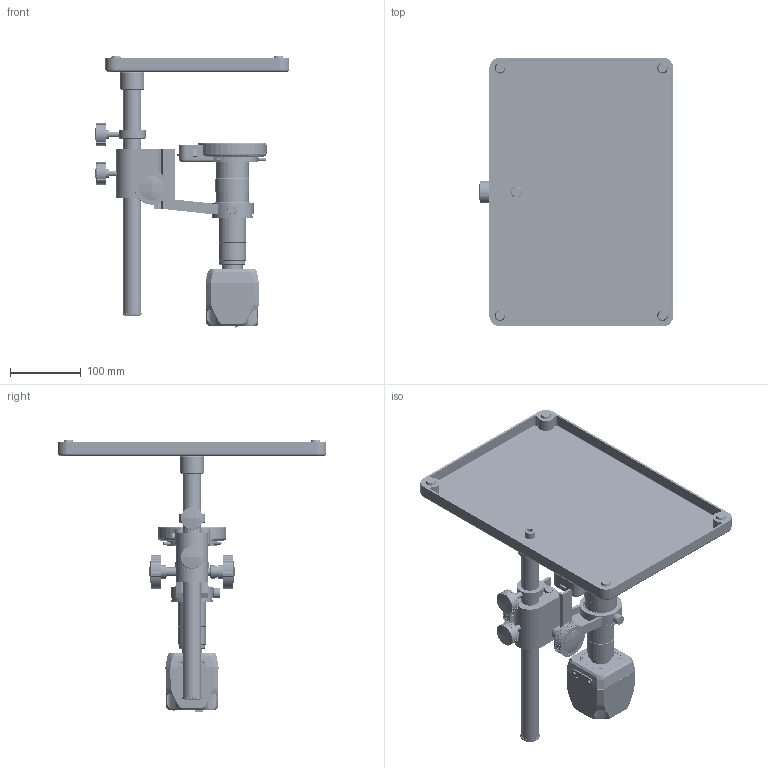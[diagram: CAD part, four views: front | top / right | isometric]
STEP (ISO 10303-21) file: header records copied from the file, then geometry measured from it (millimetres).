
FILE_DESCRIPTION((''),'2;1');
FILE_NAME('HDMI0001_ASM','2025-01-02T18:46:02',('gengdawei'),(''),'CREO PARAMETRIC BY PTC INC, 2020044','CREO PARAMETRIC BY PTC INC, 2020044','');
FILE_SCHEMA(('CONFIG_CONTROL_DESIGN'));
Products named in the file (81): ADMICE72HQW4_1_1_1_1_1; ADMICE72HQW4_2_1_1_1_1; ADMICE72HQW4_3_1_1_1_1; ADMICE72HQW4_4_1_1_1_1; ADMICE72HQW4_5_1_1_1_1; ADMICE72HQW4_6_1_1_1_1; ADMICE72HQW4_7_1_1_1_1; ADMICE72HQW4_8_1_1_1_1; ADMICE72HQW4_9_1_1_1_1; ADMICE72HQW4_10_1_1_1_1; ADMICE72HQW4_11_1_1_1_1; ADMICE72HQW4_ASM_1_1_ASM_1_ASM__ASM; B1000_ASM_1_1_ASM_1_ASM_1_ASM; BREP_43_1_1_1_1; BREP_32_1_1_1_1; BREP_54_1_1_1_1; BREP_46_1_1_1_1; BREP_35_1_1_1_1; BREP_62_1_1_1_1; BREP_51_1_1_1_1; BREP_55_1_1_1_1; BREP_44_1_1_1_1; BREP_41_1_1_1_1; BREP_31_1_1_1_1; BREP_58_1_1_1_1; BREP_38_1_1_1_1; BREP_60_1_1_1_1; BREP_57_1_1_1_1; BREP_40_1_1_1_1; BREP_48_1_1_1_1; BREP_45_1_1_1_1; BREP_53_1_1_1_1; BREP_37_1_1_1_1; BREP_33_1_1_1_1; BREP_50_1_1_1_1; ADMI3E458BAH_ASM_1_1_ASM_1_ASM__ASM; B100002_ASM_1_1_ASM_1_ASM_1_ASM; ADMI2072HVA5_1_1_1_1_1; ADMI2072HVA5_2_1_1_1_1; ADMI2072HVA5_3_1_1_1_1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
Assembly tree (80 placements, depth 7):
  HDMI0001_ASM
    HDMI00_ASM_1_ASM
      HDMI00_ASM_ASM_1_ASM_1_ASM
        HDMI00_ASM_1_1_ASM_1_ASM_1_ASM
          B1000_ASM_1_1_ASM_1_ASM_1_ASM
            ADMICE72HQW4_ASM_1_1_ASM_1_ASM__ASM
              ADMICE72HQW4_1_1_1_1_1
              ADMICE72HQW4_2_1_1_1_1
              ADMICE72HQW4_3_1_1_1_1
              ADMICE72HQW4_4_1_1_1_1
              ADMICE72HQW4_5_1_1_1_1
              ADMICE72HQW4_6_1_1_1_1
              ADMICE72HQW4_7_1_1_1_1
              ADMICE72HQW4_8_1_1_1_1
              ADMICE72HQW4_9_1_1_1_1
              ADMICE72HQW4_10_1_1_1_1
              ADMICE72HQW4_11_1_1_1_1
          B100002_ASM_1_1_ASM_1_ASM_1_ASM
            ADMI3E458BAH_ASM_1_1_ASM_1_ASM__ASM
              BREP_43_1_1_1_1
              BREP_32_1_1_1_1
              BREP_54_1_1_1_1
              BREP_46_1_1_1_1
              BREP_35_1_1_1_1
              BREP_62_1_1_1_1
              BREP_51_1_1_1_1
              BREP_55_1_1_1_1
              BREP_44_1_1_1_1
              BREP_41_1_1_1_1
              BREP_31_1_1_1_1
              BREP_58_1_1_1_1
              BREP_38_1_1_1_1
              BREP_60_1_1_1_1
              BREP_57_1_1_1_1
              BREP_40_1_1_1_1
              BREP_48_1_1_1_1
              BREP_45_1_1_1_1
              BREP_53_1_1_1_1
              BREP_37_1_1_1_1
              BREP_33_1_1_1_1
              BREP_50_1_1_1_1
          MZ45A00_ASM_1_1_ASM_1_ASM_1_ASM
            ADMI2072HVA5_ASM_1_1_ASM_1_ASM__ASM
              ADMI2072HVA5_1_1_1_1_1
              ADMI2072HVA5_2_1_1_1_1
              ADMI2072HVA5_3_1_1_1_1
              ADMI2072HVA5_4_1_1_1_1
              ADMI2072HVA5_5_1_1_1_1
              ADMI2072HVA5_6_1_1_1_1
              ADMI2072HVA5_7_1_1_1_1
              ADMI2072HVA5_8_1_1_1_1
              ADMI2072HVA5_9_1_1_1_1
              ADMI2072HVA5_10_1_1_1_1
              ADMI2072HVA5_11_1_1_1_1
              ADMI2072HVA5_12_1_1_1_1
              ADMI2072HVA5_13_1_1_1_1
              ADMI2072HVA5_14_1_1_1_1
              ADMI2072HVA5_15_1_1_1_1
              ADMI2072HVA5_16_1_1_1_1
              ADMI2072HVA5_17_1_1_1_1
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Bounding box: 275 x 380 x 385.45 mm (x, y, z)
Volume: 1121236.1 mm3; surface area: 629244.9 mm2
Topology: 82 solids, 130 shells, 10095 faces, 27579 edges, 17802 vertices
Faces by surface type: plane 6339, cylinder 2660, cone 615, bspline 335, torus 89, sphere 44, extrusion 13
Entity records: 364238 total; most frequent: CARTESIAN_POINT 106773, ORIENTED_EDGE 54702, DIRECTION 51468, EDGE_CURVE 27522, VECTOR 18970, LINE 18957, VERTEX_POINT 17804, AXIS2_PLACEMENT_3D 16249
